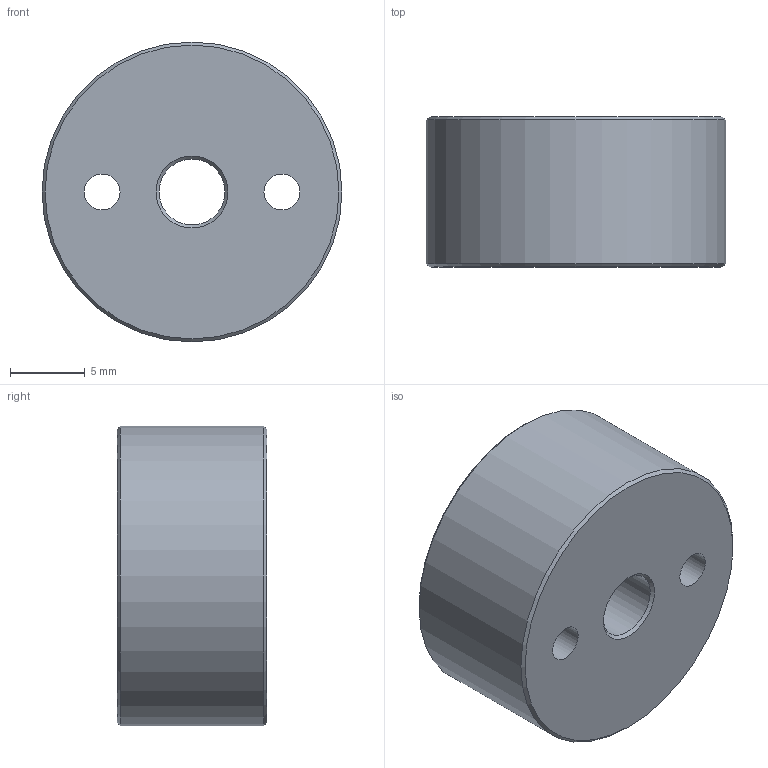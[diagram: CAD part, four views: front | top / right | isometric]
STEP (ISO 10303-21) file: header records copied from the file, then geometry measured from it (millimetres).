
FILE_DESCRIPTION (( 'STEP AP214' ), '1' );
FILE_NAME ('10mmµæ¿é.STEP', '2026-10-31T08:47:10', ( '' ), ( '' ), 'SwSTEP 2.0', 'SolidWorks 2022', '' );
FILE_SCHEMA (( 'AUTOMOTIVE_DESIGN' ));
Length unit declared in the file: millimetre
Products named in the file (1): 10mm菜輸
Bounding box: 20 x 10 x 20 mm (x, y, z)
Volume: 2789.2 mm3; surface area: 1542 mm2
Topology: 1 solids, 1 shells, 14 faces, 26 edges, 16 vertices
Faces by surface type: cylinder 6, plane 4, cone 4
Full cylindrical faces by diameter (mm): 2.4 x2, 4.4 x3, 20 x1
Entity records: 350 total; most frequent: DIRECTION 62, CARTESIAN_POINT 47, ORIENTED_EDGE 32, EDGE_LOOP 32, AXIS2_PLACEMENT_3D 31, FACE_OUTER_BOUND 20, VERTEX_POINT 16, CIRCLE 16
